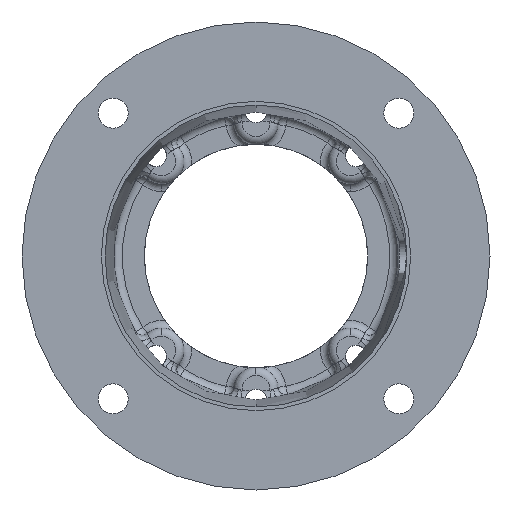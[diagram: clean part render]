
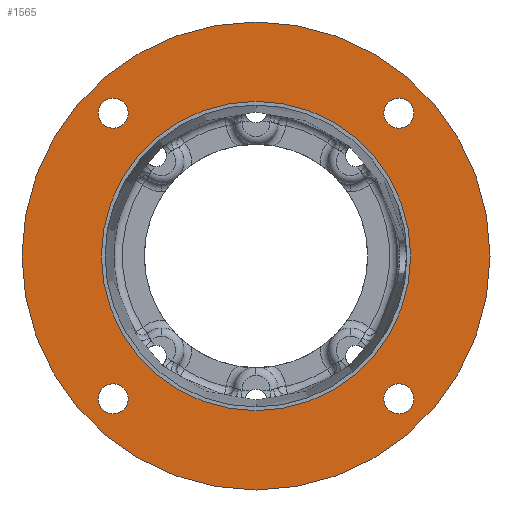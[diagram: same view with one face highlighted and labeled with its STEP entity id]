
A CAD part, front view. The second image highlights one B-rep face of the part: STEP entity #1565.
In plain terms, the highlighted planar face has unit normal (0, -1, 0).
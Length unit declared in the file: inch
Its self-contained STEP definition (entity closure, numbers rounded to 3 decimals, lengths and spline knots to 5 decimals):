
#109 = VERTEX_POINT ( 'NONE', #2862 ) ;
#114 = EDGE_CURVE ( 'NONE', #187, #117, #2918, .T. ) ;
#117 = VERTEX_POINT ( 'NONE', #2912 ) ;
#118 = VERTEX_POINT ( 'NONE', #2911 ) ;
#121 = VERTEX_POINT ( 'NONE', #2909 ) ;
#124 = EDGE_CURVE ( 'NONE', #118, #109, #2904, .T. ) ;
#135 = EDGE_CURVE ( 'NONE', #136, #121, #2941, .T. ) ;
#136 = VERTEX_POINT ( 'NONE', #2936 ) ;
#187 = VERTEX_POINT ( 'NONE', #3071 ) ;
#299 = EDGE_CURVE ( 'NONE', #312, #311, #3363, .T. ) ;
#302 = VERTEX_POINT ( 'NONE', #3336 ) ;
#304 = VERTEX_POINT ( 'NONE', #3334 ) ;
#311 = VERTEX_POINT ( 'NONE', #3388 ) ;
#312 = VERTEX_POINT ( 'NONE', #3387 ) ;
#316 = EDGE_CURVE ( 'NONE', #302, #304, #3375, .T. ) ;
#941 = VERTEX_POINT ( 'NONE', #4691 ) ;
#943 = EDGE_CURVE ( 'NONE', #944, #941, #4690, .T. ) ;
#944 = VERTEX_POINT ( 'NONE', #4685 ) ;
#1425 = EDGE_CURVE ( 'NONE', #941, #944, #6203, .T. ) ;
#1547 = ORIENTED_EDGE ( 'NONE', *, *, #114, .T. ) ;
#1548 = EDGE_LOOP ( 'NONE', ( #1549, #1551 ) ) ;
#1549 = ORIENTED_EDGE ( 'NONE', *, *, #1550, .T. ) ;
#1550 = EDGE_CURVE ( 'NONE', #121, #136, #6435, .T. ) ;
#1551 = ORIENTED_EDGE ( 'NONE', *, *, #135, .T. ) ;
#1552 = EDGE_LOOP ( 'NONE', ( #1553, #1555 ) ) ;
#1553 = ORIENTED_EDGE ( 'NONE', *, *, #1554, .T. ) ;
#1554 = EDGE_CURVE ( 'NONE', #311, #312, #6430, .T. ) ;
#1555 = ORIENTED_EDGE ( 'NONE', *, *, #299, .T. ) ;
#1556 = EDGE_LOOP ( 'NONE', ( #1557, #1559 ) ) ;
#1557 = ORIENTED_EDGE ( 'NONE', *, *, #1558, .T. ) ;
#1558 = EDGE_CURVE ( 'NONE', #304, #302, #6425, .T. ) ;
#1559 = ORIENTED_EDGE ( 'NONE', *, *, #316, .T. ) ;
#1565 = ADVANCED_FACE ( 'NONE', ( #6474, #6473, #6472, #6471, #6470, #6469 ), #6468, .F. ) ;
#1566 = EDGE_LOOP ( 'NONE', ( #1567, #1569 ) ) ;
#1567 = ORIENTED_EDGE ( 'NONE', *, *, #1568, .F. ) ;
#1568 = EDGE_CURVE ( 'NONE', #109, #118, #6463, .T. ) ;
#1569 = ORIENTED_EDGE ( 'NONE', *, *, #124, .F. ) ;
#1570 = EDGE_LOOP ( 'NONE', ( #1571, #1547 ) ) ;
#1571 = ORIENTED_EDGE ( 'NONE', *, *, #1572, .T. ) ;
#1572 = EDGE_CURVE ( 'NONE', #117, #187, #6458, .T. ) ;
#1611 = EDGE_LOOP ( 'NONE', ( #1612, #1613 ) ) ;
#1612 = ORIENTED_EDGE ( 'NONE', *, *, #943, .T. ) ;
#1613 = ORIENTED_EDGE ( 'NONE', *, *, #1425, .T. ) ;
#2862 = CARTESIAN_POINT ( 'NONE',  ( 0., 0., -2.2505 ) ) ;
#2900 = DIRECTION ( 'NONE',  ( 0., 0., -1. ) ) ;
#2901 = DIRECTION ( 'NONE',  ( 0., -1., 0. ) ) ;
#2902 = CARTESIAN_POINT ( 'NONE',  ( 0., 0., 0. ) ) ;
#2903 = AXIS2_PLACEMENT_3D ( 'NONE', #2902, #2901, #2900 ) ;
#2904 = CIRCLE ( 'NONE', #2903, 2.2505 ) ;
#2909 = CARTESIAN_POINT ( 'NONE',  ( -2.07889, 0., -1.86014 ) ) ;
#2911 = CARTESIAN_POINT ( 'NONE',  ( 0., 0., 2.2505 ) ) ;
#2912 = CARTESIAN_POINT ( 'NONE',  ( 2.07889, 0., -1.86014 ) ) ;
#2914 = DIRECTION ( 'NONE',  ( 0., 0., 1. ) ) ;
#2915 = DIRECTION ( 'NONE',  ( 0., 1., 0. ) ) ;
#2916 = CARTESIAN_POINT ( 'NONE',  ( 2.07889, 0., -2.07889 ) ) ;
#2917 = AXIS2_PLACEMENT_3D ( 'NONE', #2916, #2915, #2914 ) ;
#2918 = CIRCLE ( 'NONE', #2917, 0.21875 ) ;
#2936 = CARTESIAN_POINT ( 'NONE',  ( -2.07889, 0., -2.29764 ) ) ;
#2937 = DIRECTION ( 'NONE',  ( 0., 0., 1. ) ) ;
#2938 = DIRECTION ( 'NONE',  ( 0., 1., 0. ) ) ;
#2939 = CARTESIAN_POINT ( 'NONE',  ( -2.07889, 0., -2.07889 ) ) ;
#2940 = AXIS2_PLACEMENT_3D ( 'NONE', #2939, #2938, #2937 ) ;
#2941 = CIRCLE ( 'NONE', #2940, 0.21875 ) ;
#3071 = CARTESIAN_POINT ( 'NONE',  ( 2.07889, 0., -2.29764 ) ) ;
#3334 = CARTESIAN_POINT ( 'NONE',  ( 2.07889, 0., 2.29764 ) ) ;
#3336 = CARTESIAN_POINT ( 'NONE',  ( 2.07889, 0., 1.86014 ) ) ;
#3359 = DIRECTION ( 'NONE',  ( 0., 0., 1. ) ) ;
#3360 = DIRECTION ( 'NONE',  ( 0., 1., 0. ) ) ;
#3361 = CARTESIAN_POINT ( 'NONE',  ( -2.07889, 0., 2.07889 ) ) ;
#3362 = AXIS2_PLACEMENT_3D ( 'NONE', #3361, #3360, #3359 ) ;
#3363 = CIRCLE ( 'NONE', #3362, 0.21875 ) ;
#3372 = DIRECTION ( 'NONE',  ( 0., 0., 1. ) ) ;
#3373 = DIRECTION ( 'NONE',  ( 0., 1., 0. ) ) ;
#3374 = AXIS2_PLACEMENT_3D ( 'NONE', #3380, #3373, #3372 ) ;
#3375 = CIRCLE ( 'NONE', #3374, 0.21875 ) ;
#3380 = CARTESIAN_POINT ( 'NONE',  ( 2.07889, 0., 2.07889 ) ) ;
#3387 = CARTESIAN_POINT ( 'NONE',  ( -2.07889, 0., 1.86014 ) ) ;
#3388 = CARTESIAN_POINT ( 'NONE',  ( -2.07889, 0., 2.29764 ) ) ;
#4685 = CARTESIAN_POINT ( 'NONE',  ( 0., 0., -3.405 ) ) ;
#4686 = DIRECTION ( 'NONE',  ( 0., 0., -1. ) ) ;
#4687 = DIRECTION ( 'NONE',  ( 0., -1., 0. ) ) ;
#4688 = CARTESIAN_POINT ( 'NONE',  ( 0., 0., 0. ) ) ;
#4689 = AXIS2_PLACEMENT_3D ( 'NONE', #4688, #4687, #4686 ) ;
#4690 = CIRCLE ( 'NONE', #4689, 3.405 ) ;
#4691 = CARTESIAN_POINT ( 'NONE',  ( 0., 0., 3.405 ) ) ;
#6199 = DIRECTION ( 'NONE',  ( 0., 0., -1. ) ) ;
#6200 = DIRECTION ( 'NONE',  ( 0., -1., 0. ) ) ;
#6201 = CARTESIAN_POINT ( 'NONE',  ( 0., 0., 0. ) ) ;
#6202 = AXIS2_PLACEMENT_3D ( 'NONE', #6201, #6200, #6199 ) ;
#6203 = CIRCLE ( 'NONE', #6202, 3.405 ) ;
#6421 = DIRECTION ( 'NONE',  ( 0., 0., 1. ) ) ;
#6422 = DIRECTION ( 'NONE',  ( 0., 1., 0. ) ) ;
#6423 = CARTESIAN_POINT ( 'NONE',  ( 2.07889, 0., 2.07889 ) ) ;
#6424 = AXIS2_PLACEMENT_3D ( 'NONE', #6423, #6422, #6421 ) ;
#6425 = CIRCLE ( 'NONE', #6424, 0.21875 ) ;
#6426 = DIRECTION ( 'NONE',  ( 0., 0., 1. ) ) ;
#6427 = DIRECTION ( 'NONE',  ( 0., 1., 0. ) ) ;
#6428 = CARTESIAN_POINT ( 'NONE',  ( -2.07889, 0., 2.07889 ) ) ;
#6429 = AXIS2_PLACEMENT_3D ( 'NONE', #6428, #6427, #6426 ) ;
#6430 = CIRCLE ( 'NONE', #6429, 0.21875 ) ;
#6431 = DIRECTION ( 'NONE',  ( 0., 0., 1. ) ) ;
#6432 = DIRECTION ( 'NONE',  ( 0., 1., 0. ) ) ;
#6433 = CARTESIAN_POINT ( 'NONE',  ( -2.07889, 0., -2.07889 ) ) ;
#6434 = AXIS2_PLACEMENT_3D ( 'NONE', #6433, #6432, #6431 ) ;
#6435 = CIRCLE ( 'NONE', #6434, 0.21875 ) ;
#6454 = DIRECTION ( 'NONE',  ( 0., 0., 1. ) ) ;
#6455 = DIRECTION ( 'NONE',  ( 0., 1., 0. ) ) ;
#6456 = CARTESIAN_POINT ( 'NONE',  ( 2.07889, 0., -2.07889 ) ) ;
#6457 = AXIS2_PLACEMENT_3D ( 'NONE', #6456, #6455, #6454 ) ;
#6458 = CIRCLE ( 'NONE', #6457, 0.21875 ) ;
#6459 = DIRECTION ( 'NONE',  ( 0., 0., -1. ) ) ;
#6460 = DIRECTION ( 'NONE',  ( 0., -1., 0. ) ) ;
#6461 = CARTESIAN_POINT ( 'NONE',  ( 0., 0., 0. ) ) ;
#6462 = AXIS2_PLACEMENT_3D ( 'NONE', #6461, #6460, #6459 ) ;
#6463 = CIRCLE ( 'NONE', #6462, 2.2505 ) ;
#6464 = DIRECTION ( 'NONE',  ( 0., 0., 1. ) ) ;
#6465 = DIRECTION ( 'NONE',  ( 0., 1., 0. ) ) ;
#6466 = CARTESIAN_POINT ( 'NONE',  ( -2.20315, 0., 0. ) ) ;
#6467 = AXIS2_PLACEMENT_3D ( 'NONE', #6466, #6465, #6464 ) ;
#6468 = PLANE ( 'NONE',  #6467 ) ;
#6469 = FACE_OUTER_BOUND ( 'NONE', #1611, .T. ) ;
#6470 = FACE_BOUND ( 'NONE', #1556, .T. ) ;
#6471 = FACE_BOUND ( 'NONE', #1552, .T. ) ;
#6472 = FACE_BOUND ( 'NONE', #1548, .T. ) ;
#6473 = FACE_BOUND ( 'NONE', #1570, .T. ) ;
#6474 = FACE_BOUND ( 'NONE', #1566, .T. ) ;
